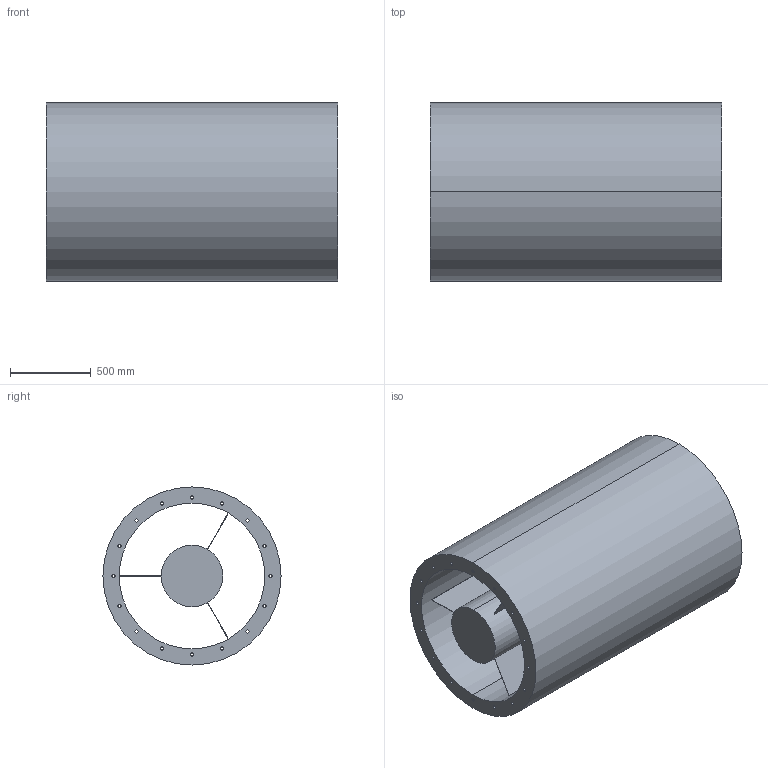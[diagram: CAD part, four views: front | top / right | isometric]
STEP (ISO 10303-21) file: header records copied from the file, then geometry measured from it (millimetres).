
FILE_DESCRIPTION(('STEP AP214'),'1');
FILE_NAME('accessory_5211815800.stp','2017-10-09T11:37:52',('TraceParts'),('TraceParts S.A.'),'Spatial InterOp 3D',' ',' ');
FILE_SCHEMA(('automotive_design'));
Length unit declared in the file: millimetre
Products named in the file (1): accessory_5211815800
Bounding box: 1800 x 1100 x 1100 mm (x, y, z)
Volume: 745223053.9 mm3; surface area: 18107074.8 mm2
Topology: 1 solids, 1 shells, 56 faces, 155 edges, 103 vertices
Faces by surface type: cylinder 38, plane 16, torus 2
Entity records: 2384 total; most frequent: DIRECTION 362, CARTESIAN_POINT 315, ORIENTED_EDGE 310, EDGE_CURVE 155, AXIS2_PLACEMENT_3D 150, VERTEX_POINT 103, EDGE_LOOP 96, CIRCLE 93
